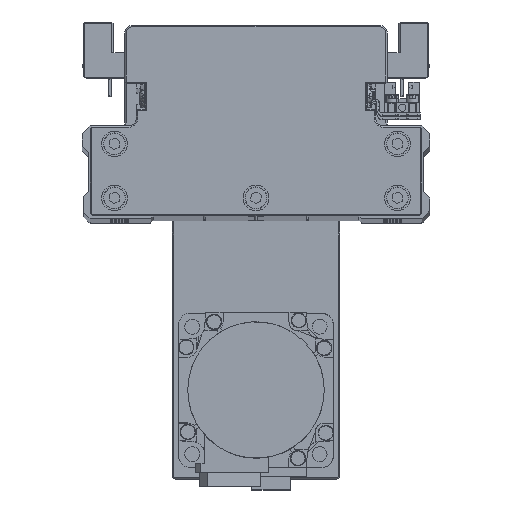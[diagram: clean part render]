
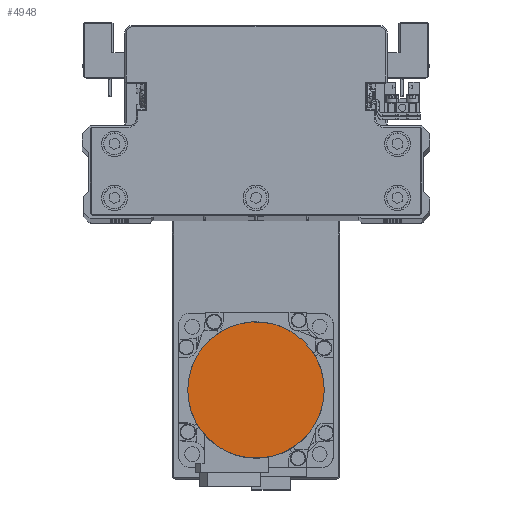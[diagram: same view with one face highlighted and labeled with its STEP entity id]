
A CAD part, top view. The second image highlights one B-rep face of the part: STEP entity #4948.
In plain terms, the highlighted planar face has unit normal (0, 0, 1) as drawn and (0, 0, -1) by its records, which use the part's own axes.
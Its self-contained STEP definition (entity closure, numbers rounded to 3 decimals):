
#568 = CARTESIAN_POINT ( 'NONE',  ( 19.965, 17.512, -109.7 ) ) ;
#758 = CARTESIAN_POINT ( 'NONE',  ( -11.744, 23.819, -109.7 ) ) ;
#792 = CARTESIAN_POINT ( 'NONE',  ( -13.28, -22.998, -109.7 ) ) ;
#992 = CARTESIAN_POINT ( 'NONE',  ( 17.512, -19.965, -109.7 ) ) ;
#3658 = CARTESIAN_POINT ( 'NONE',  ( 23.819, 11.744, -109.7 ) ) ;
#3879 = CARTESIAN_POINT ( 'NONE',  ( -3.469, 26.329, -109.7 ) ) ;
#3909 = CARTESIAN_POINT ( 'NONE',  ( -19.965, -17.512, -109.7 ) ) ;
#4066 = CARTESIAN_POINT ( 'NONE',  ( -26.329, 3.469, -109.7 ) ) ;
#4096 = CARTESIAN_POINT ( 'NONE',  ( 11.744, -23.819, -109.7 ) ) ;
#4948 = ADVANCED_FACE ( 'NONE', ( #22043 ), #34655, .F. ) ;
#6270 = CARTESIAN_POINT ( 'NONE',  ( 0., 0., -109.7 ) ) ;
#6754 = CARTESIAN_POINT ( 'NONE',  ( 26.329, 3.469, -109.7 ) ) ;
#6963 = CARTESIAN_POINT ( 'NONE',  ( 3.469, 26.329, -109.7 ) ) ;
#7004 = CARTESIAN_POINT ( 'NONE',  ( -23.819, -11.744, -109.7 ) ) ;
#7173 = CARTESIAN_POINT ( 'NONE',  ( -23.819, 11.744, -109.7 ) ) ;
#7207 = CARTESIAN_POINT ( 'NONE',  ( 3.469, -26.329, -109.7 ) ) ;
#7397 = CARTESIAN_POINT ( 'NONE',  ( 26.329, -3.469, -109.7 ) ) ;
#9116 = CARTESIAN_POINT ( 'NONE',  ( -26.5, 0., -109.7 ) ) ;
#9746 = EDGE_CURVE ( 'NONE', #39644, #38706, #33730, .T. ) ;
#10066 = CARTESIAN_POINT ( 'NONE',  ( 11.744, 23.819, -109.7 ) ) ;
#10103 = CARTESIAN_POINT ( 'NONE',  ( -26.329, -3.469, -109.7 ) ) ;
#10275 = CARTESIAN_POINT ( 'NONE',  ( -19.965, 17.512, -109.7 ) ) ;
#10320 = CARTESIAN_POINT ( 'NONE',  ( -3.469, -26.329, -109.7 ) ) ;
#10529 = CARTESIAN_POINT ( 'NONE',  ( 23.819, -11.744, -109.7 ) ) ;
#13188 = CARTESIAN_POINT ( 'NONE',  ( 17.512, 19.965, -109.7 ) ) ;
#13367 = CARTESIAN_POINT ( 'NONE',  ( -13.28, 22.998, -109.7 ) ) ;
#13407 = CARTESIAN_POINT ( 'NONE',  ( -11.744, -23.819, -109.7 ) ) ;
#13561 = EDGE_CURVE ( 'NONE', #38706, #39644, #23927, .T. ) ;
#13629 = CARTESIAN_POINT ( 'NONE',  ( 19.965, -17.512, -109.7 ) ) ;
#14881 = AXIS2_PLACEMENT_3D ( 'NONE', #6270, #18936, #31602 ) ;
#15041 = EDGE_LOOP ( 'NONE', ( #16129, #31805 ) ) ;
#16129 = ORIENTED_EDGE ( 'NONE', *, *, #9746, .F. ) ;
#16302 = CARTESIAN_POINT ( 'NONE',  ( 22.998, 13.28, -109.7 ) ) ;
#16504 = CARTESIAN_POINT ( 'NONE',  ( -6.871, 25.652, -109.7 ) ) ;
#16534 = CARTESIAN_POINT ( 'NONE',  ( -17.512, -19.965, -109.7 ) ) ;
#16694 = CARTESIAN_POINT ( 'NONE',  ( -26.5, 1.734, -109.7 ) ) ;
#16733 = CARTESIAN_POINT ( 'NONE',  ( 13.28, -22.998, -109.7 ) ) ;
#18936 = DIRECTION ( 'NONE',  ( 0., 0., 1. ) ) ;
#19411 = CARTESIAN_POINT ( 'NONE',  ( 25.652, 6.871, -109.7 ) ) ;
#19633 = CARTESIAN_POINT ( 'NONE',  ( 1.734, 26.5, -109.7 ) ) ;
#19672 = CARTESIAN_POINT ( 'NONE',  ( -22.998, -13.28, -109.7 ) ) ;
#19838 = CARTESIAN_POINT ( 'NONE',  ( -25.147, 8.539, -109.7 ) ) ;
#19869 = CARTESIAN_POINT ( 'NONE',  ( 6.871, -25.652, -109.7 ) ) ;
#20063 = CARTESIAN_POINT ( 'NONE',  ( 26.5, -1.734, -109.7 ) ) ;
#22043 = FACE_OUTER_BOUND ( 'NONE', #15041, .T. ) ;
#22492 = CARTESIAN_POINT ( 'NONE',  ( 26.5, 0., -109.7 ) ) ;
#22539 = CARTESIAN_POINT ( 'NONE',  ( 26.5, 0., -109.7 ) ) ;
#22733 = CARTESIAN_POINT ( 'NONE',  ( 8.539, 25.147, -109.7 ) ) ;
#22768 = CARTESIAN_POINT ( 'NONE',  ( -25.652, -6.871, -109.7 ) ) ;
#22955 = CARTESIAN_POINT ( 'NONE',  ( -21.07, 16.165, -109.7 ) ) ;
#22995 = CARTESIAN_POINT ( 'NONE',  ( -1.734, -26.5, -109.7 ) ) ;
#23188 = CARTESIAN_POINT ( 'NONE',  ( 25.147, -8.539, -109.7 ) ) ;
#23927 = B_SPLINE_CURVE_WITH_KNOTS ( 'NONE', 3,
 ( #25890, #38478, #10103, #22768, #35372, #7004, #19672, #32316, #3909, #16534, #29204, #792, #13407, #26079, #38687, #10320, #22995, #35587, #7207, #19869, #32500, #4096, #16733, #29403, #992, #13629, #26305, #38907, #10529, #23188, #35781, #7397, #20063, #32708 ),
 .UNSPECIFIED., .F., .F.,
 ( 4, 2, 2, 2, 2, 2, 2, 2, 2, 2, 2, 2, 2, 2, 2, 2, 4 ),
 ( 0., 0.063, 0.125, 0.188, 0.25, 0.312, 0.375, 0.437, 0.5, 0.562, 0.625, 0.687, 0.75, 0.813, 0.875, 0.938, 1. ),
 .UNSPECIFIED. ) ;
#25857 = CARTESIAN_POINT ( 'NONE',  ( 16.165, 21.07, -109.7 ) ) ;
#25890 = CARTESIAN_POINT ( 'NONE',  ( -26.5, 0., -109.7 ) ) ;
#26046 = CARTESIAN_POINT ( 'NONE',  ( -16.165, 21.07, -109.7 ) ) ;
#26079 = CARTESIAN_POINT ( 'NONE',  ( -8.539, -25.147, -109.7 ) ) ;
#26305 = CARTESIAN_POINT ( 'NONE',  ( 21.07, -16.165, -109.7 ) ) ;
#28982 = CARTESIAN_POINT ( 'NONE',  ( 21.07, 16.165, -109.7 ) ) ;
#29175 = CARTESIAN_POINT ( 'NONE',  ( -8.539, 25.147, -109.7 ) ) ;
#29204 = CARTESIAN_POINT ( 'NONE',  ( -16.165, -21.07, -109.7 ) ) ;
#29364 = CARTESIAN_POINT ( 'NONE',  ( -26.5, 0., -109.7 ) ) ;
#29403 = CARTESIAN_POINT ( 'NONE',  ( 16.165, -21.07, -109.7 ) ) ;
#31602 = DIRECTION ( 'NONE',  ( 1., 0., 0. ) ) ;
#31805 = ORIENTED_EDGE ( 'NONE', *, *, #13561, .F. ) ;
#32065 = CARTESIAN_POINT ( 'NONE',  ( 25.147, 8.539, -109.7 ) ) ;
#32282 = CARTESIAN_POINT ( 'NONE',  ( -1.734, 26.5, -109.7 ) ) ;
#32316 = CARTESIAN_POINT ( 'NONE',  ( -21.07, -16.165, -109.7 ) ) ;
#32469 = CARTESIAN_POINT ( 'NONE',  ( -25.652, 6.871, -109.7 ) ) ;
#32500 = CARTESIAN_POINT ( 'NONE',  ( 8.539, -25.147, -109.7 ) ) ;
#32708 = CARTESIAN_POINT ( 'NONE',  ( 26.5, 0., -109.7 ) ) ;
#33730 = B_SPLINE_CURVE_WITH_KNOTS ( 'NONE', 3,
 ( #22539, #35138, #6754, #19411, #32065, #3658, #16302, #28982, #568, #13188, #25857, #38442, #10066, #22733, #35332, #6963, #19633, #32282, #3879, #16504, #29175, #758, #13367, #26046, #38646, #10275, #22955, #35548, #7173, #19838, #32469, #4066, #16694, #29364 ),
 .UNSPECIFIED., .F., .F.,
 ( 4, 2, 2, 2, 2, 2, 2, 2, 2, 2, 2, 2, 2, 2, 2, 2, 4 ),
 ( 0., 0.062, 0.125, 0.187, 0.25, 0.312, 0.375, 0.437, 0.5, 0.562, 0.625, 0.687, 0.75, 0.813, 0.875, 0.938, 1. ),
 .UNSPECIFIED. ) ;
#34655 = PLANE ( 'NONE',  #14881 ) ;
#35138 = CARTESIAN_POINT ( 'NONE',  ( 26.5, 1.734, -109.7 ) ) ;
#35332 = CARTESIAN_POINT ( 'NONE',  ( 6.871, 25.652, -109.7 ) ) ;
#35372 = CARTESIAN_POINT ( 'NONE',  ( -25.147, -8.539, -109.7 ) ) ;
#35548 = CARTESIAN_POINT ( 'NONE',  ( -22.998, 13.28, -109.7 ) ) ;
#35587 = CARTESIAN_POINT ( 'NONE',  ( 1.734, -26.5, -109.7 ) ) ;
#35781 = CARTESIAN_POINT ( 'NONE',  ( 25.652, -6.871, -109.7 ) ) ;
#38442 = CARTESIAN_POINT ( 'NONE',  ( 13.28, 22.998, -109.7 ) ) ;
#38478 = CARTESIAN_POINT ( 'NONE',  ( -26.5, -1.734, -109.7 ) ) ;
#38646 = CARTESIAN_POINT ( 'NONE',  ( -17.512, 19.965, -109.7 ) ) ;
#38687 = CARTESIAN_POINT ( 'NONE',  ( -6.871, -25.652, -109.7 ) ) ;
#38706 = VERTEX_POINT ( 'NONE', #9116 ) ;
#38907 = CARTESIAN_POINT ( 'NONE',  ( 22.998, -13.28, -109.7 ) ) ;
#39644 = VERTEX_POINT ( 'NONE', #22492 ) ;
